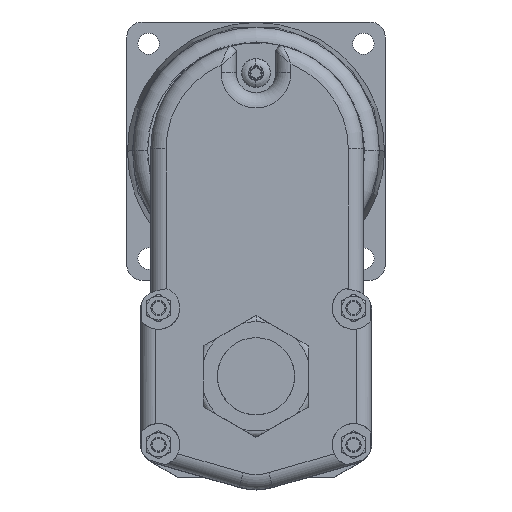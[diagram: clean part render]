
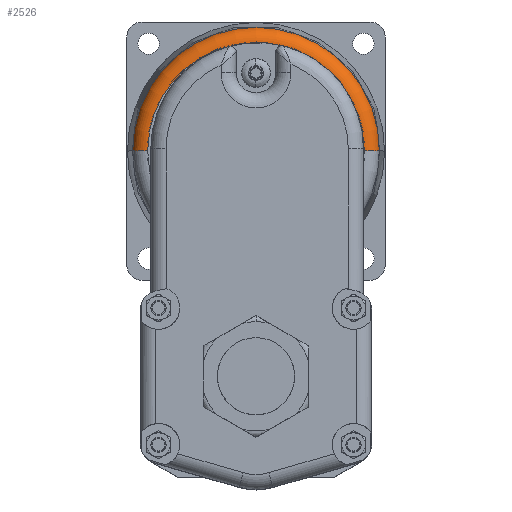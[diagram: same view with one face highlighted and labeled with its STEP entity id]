
A CAD part, top view. The second image highlights one B-rep face of the part: STEP entity #2526.
In plain terms, the highlighted toroidal (fillet/blend) face has major radius 35.639 mm and minor radius 5 mm.
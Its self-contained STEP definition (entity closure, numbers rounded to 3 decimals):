
#663 = VERTEX_POINT ( 'NONE', #6135 ) ;
#666 = VERTEX_POINT ( 'NONE', #6138 ) ;
#670 = VERTEX_POINT ( 'NONE', #6142 ) ;
#672 = VERTEX_POINT ( 'NONE', #6144 ) ;
#1679 = EDGE_LOOP ( 'NONE', ( #3185, #3184, #3186, #3187 ) ) ;
#2526 = ADVANCED_FACE ( 'NONE', ( #9813 ), #9818, .T. ) ;
#3184 = ORIENTED_EDGE ( 'NONE', *, *, #3314, .T. ) ;
#3185 = ORIENTED_EDGE ( 'NONE', *, *, #3312, .F. ) ;
#3186 = ORIENTED_EDGE ( 'NONE', *, *, #3302, .F. ) ;
#3187 = ORIENTED_EDGE ( 'NONE', *, *, #3291, .F. ) ;
#3291 = EDGE_CURVE ( 'NONE', #670, #663, #9962, .T. ) ;
#3302 = EDGE_CURVE ( 'NONE', #663, #666, #9974, .T. ) ;
#3312 = EDGE_CURVE ( 'NONE', #672, #670, #9986, .T. ) ;
#3314 = EDGE_CURVE ( 'NONE', #672, #666, #9988, .T. ) ;
#5881 = AXIS2_PLACEMENT_3D ( 'NONE', #10291, #10290, #10293 ) ;
#5974 = AXIS2_PLACEMENT_3D ( 'NONE', #10619, #10620, #10621 ) ;
#5978 = AXIS2_PLACEMENT_3D ( 'NONE', #10683, #10685, #10686 ) ;
#5986 = AXIS2_PLACEMENT_3D ( 'NONE', #10754, #10761, #10762 ) ;
#5987 = AXIS2_PLACEMENT_3D ( 'NONE', #10766, #10767, #10768 ) ;
#6135 = CARTESIAN_POINT ( 'NONE',  ( -40.637, 74.4, 48.841 ) ) ;
#6138 = CARTESIAN_POINT ( 'NONE',  ( 40.637, 74.4, 48.841 ) ) ;
#6142 = CARTESIAN_POINT ( 'NONE',  ( -35.639, 74.4, 53.7 ) ) ;
#6144 = CARTESIAN_POINT ( 'NONE',  ( 35.639, 74.4, 53.7 ) ) ;
#9813 = FACE_OUTER_BOUND ( 'NONE', #1679, .T. ) ;
#9818 = TOROIDAL_SURFACE ( 'NONE', #5881, 35.639, 5. ) ;
#9962 = CIRCLE ( 'NONE', #5974, 5. ) ;
#9974 = CIRCLE ( 'NONE', #5978, 40.637 ) ;
#9986 = CIRCLE ( 'NONE', #5986, 35.639 ) ;
#9988 = CIRCLE ( 'NONE', #5987, 5. ) ;
#10290 = DIRECTION ( 'NONE',  ( 0., 0., -1. ) ) ;
#10291 = CARTESIAN_POINT ( 'NONE',  ( 0., 74.4, 48.7 ) ) ;
#10293 = DIRECTION ( 'NONE',  ( -1., 0., 0. ) ) ;
#10619 = CARTESIAN_POINT ( 'NONE',  ( -35.639, 74.4, 48.7 ) ) ;
#10620 = DIRECTION ( 'NONE',  ( 0., -1., 0. ) ) ;
#10621 = DIRECTION ( 'NONE',  ( 0., 0., -1. ) ) ;
#10683 = CARTESIAN_POINT ( 'NONE',  ( 0., 74.4, 48.841 ) ) ;
#10685 = DIRECTION ( 'NONE',  ( 0., 0., -1. ) ) ;
#10686 = DIRECTION ( 'NONE',  ( 1., 0., 0. ) ) ;
#10754 = CARTESIAN_POINT ( 'NONE',  ( 0., 74.4, 53.7 ) ) ;
#10761 = DIRECTION ( 'NONE',  ( 0., 0., 1. ) ) ;
#10762 = DIRECTION ( 'NONE',  ( -1., 0., 0. ) ) ;
#10766 = CARTESIAN_POINT ( 'NONE',  ( 35.639, 74.4, 48.7 ) ) ;
#10767 = DIRECTION ( 'NONE',  ( 0., 1., 0. ) ) ;
#10768 = DIRECTION ( 'NONE',  ( -1., 0., 0. ) ) ;
